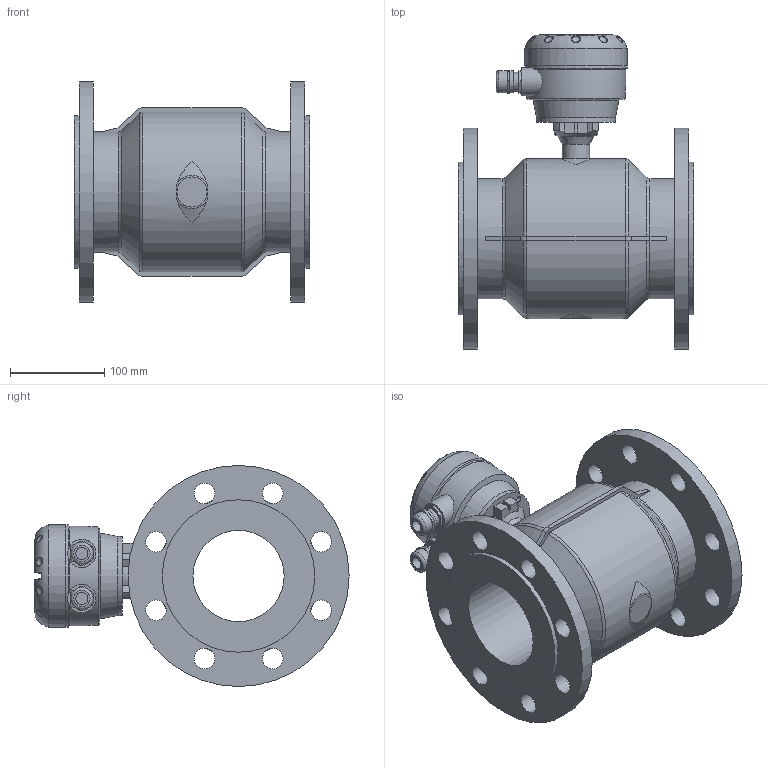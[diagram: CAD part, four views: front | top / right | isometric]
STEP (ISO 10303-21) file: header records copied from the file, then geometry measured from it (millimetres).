
FILE_DESCRIPTION (( 'STEP AP203' ), '1' );
FILE_NAME ('KROHNE_OPTIFLUX_2-4000W_DIN2634_DN100_PN25.STEP', '2011-07-04T14:25:07', ( '' ), ( '' ), 'SwSTEP 2.0', 'SolidWorks 2010', '' );
FILE_SCHEMA (( 'CONFIG_CONTROL_DESIGN' ));
Length unit declared in the file: millimetre
Products named in the file (1): KROHNE_OPTIFLUX_2-4000W_DIN2634_DN100_PN25
Bounding box: 250 x 333.99 x 235 mm (x, y, z)
Volume: 4353796.6 mm3; surface area: 456855.2 mm2
Topology: 14 solids, 14 shells, 391 faces, 976 edges, 634 vertices
Faces by surface type: plane 179, cylinder 102, bspline 53, torus 30, cone 14, sphere 13
Full cylindrical faces by diameter (mm): 4 x4, 6.6 x8, 13 x2, 20 x2, 22 x16, 23.5 x4, 29 x1, 30 x2, 84 x2, 97 x1, 109 x1, 127.6 x2, 162 x2, 235 x2
Entity records: 15840 total; most frequent: CARTESIAN_POINT 7101, ORIENTED_EDGE 1746, DIRECTION 1657, EDGE_CURVE 873, AXIS2_PLACEMENT_3D 615, VERTEX_POINT 607, EDGE_LOOP 548, FACE_OUTER_BOUND 457
